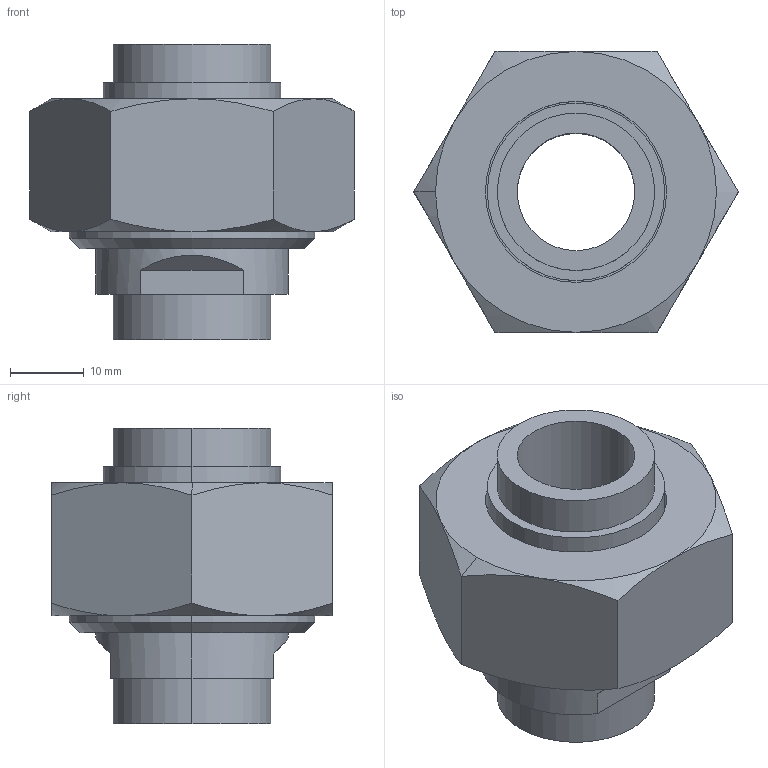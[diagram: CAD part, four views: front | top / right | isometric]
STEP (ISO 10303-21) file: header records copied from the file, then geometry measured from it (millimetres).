
FILE_DESCRIPTION (( 'STEP AP203' ), '1' );
FILE_NAME ('11-7131-03_outokumpu.step', '2015-08-07T11:08:05', ( '' ), ( '' ), 'SwSTEP 2.0', 'SolidWorks 2008', '' );
FILE_SCHEMA (( 'CONFIG_CONTROL_DESIGN' ));
Length unit declared in the file: millimetre
Products named in the file (4): nipple-13-444-035_outokumpu_nipple-13-444-035_outokumpu; case-13-555-215_outokumpu_case-13-555-215_outokumpu; nut-13-222-033_outokumpu_nut-13-222-033_outokumpu; 11-7131-03_outokumpu
Assembly tree (3 placements, depth 2):
  11-7131-03_outokumpu
    nut-13-222-033_outokumpu_nut-13-222-033_outokumpu
    nipple-13-444-035_outokumpu_nipple-13-444-035_outokumpu
    case-13-555-215_outokumpu_case-13-555-215_outokumpu
Bounding box: 43.88 x 38 x 40 mm (x, y, z)
Volume: 22502.7 mm3; surface area: 13811.4 mm2
Topology: 3 solids, 3 shells, 65 faces, 138 edges, 86 vertices
Faces by surface type: plane 23, cone 22, cylinder 20
Entity records: 2302 total; most frequent: CARTESIAN_POINT 469, DIRECTION 322, ORIENTED_EDGE 276, AXIS2_PLACEMENT_3D 139, EDGE_CURVE 138, VERTEX_POINT 86, EDGE_LOOP 78, CIRCLE 68
